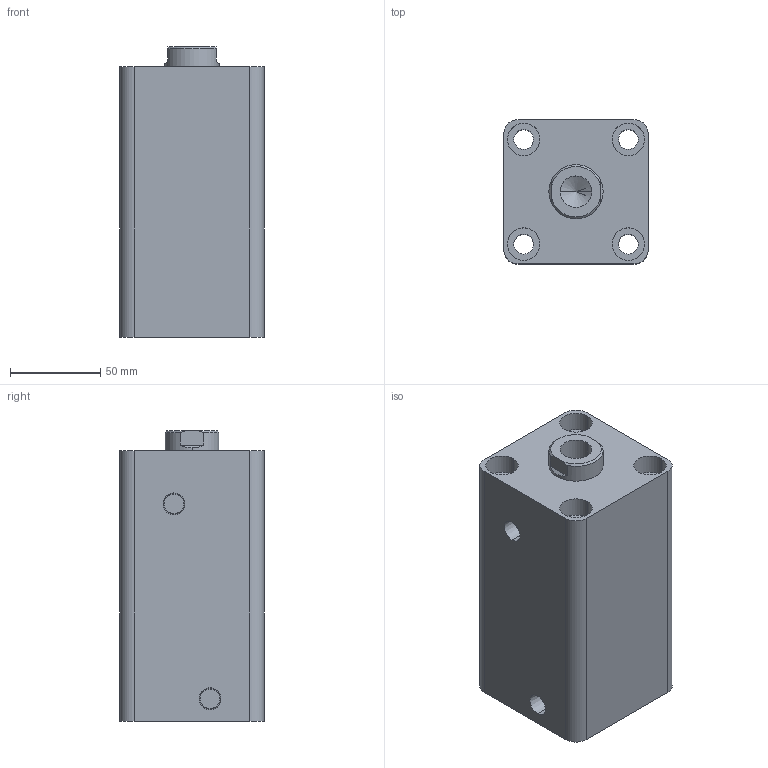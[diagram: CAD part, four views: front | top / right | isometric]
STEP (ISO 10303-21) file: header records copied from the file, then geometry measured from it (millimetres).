
FILE_DESCRIPTION (( 'STEP AP203' ), '1' );
FILE_NAME ('HTB-SD50-90N.STEP', '2019-10-07T07:20:49', ( '微软用户' ), ( '微软中国' ), 'SwSTEP 2.0', 'SolidWorks 2012', '' );
FILE_SCHEMA (( 'CONFIG_CONTROL_DESIGN' ));
Length unit declared in the file: millimetre
Products named in the file (3): HTB-SD50-90N; HTB-SD50-90N活塞杆; HTB-SD50-90掛极
Assembly tree (2 placements, depth 2):
  HTB-SD50-90N
    HTB-SD50-90掛极
    HTB-SD50-90N活塞杆
Bounding box: 80 x 80 x 161 mm (x, y, z)
Volume: 766291 mm3; surface area: 124601.1 mm2
Topology: 2 solids, 2 shells, 83 faces, 184 edges, 119 vertices
Faces by surface type: cylinder 42, plane 27, cone 8, torus 6
Entity records: 2655 total; most frequent: DIRECTION 456, CARTESIAN_POINT 417, ORIENTED_EDGE 364, AXIS2_PLACEMENT_3D 194, EDGE_CURVE 182, VERTEX_POINT 119, EDGE_LOOP 107, CIRCLE 106
